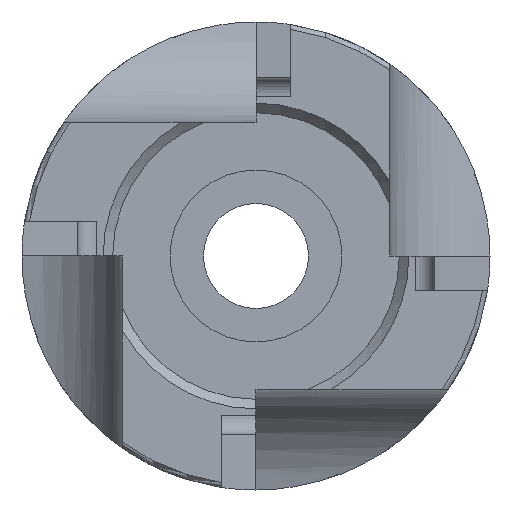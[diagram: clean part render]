
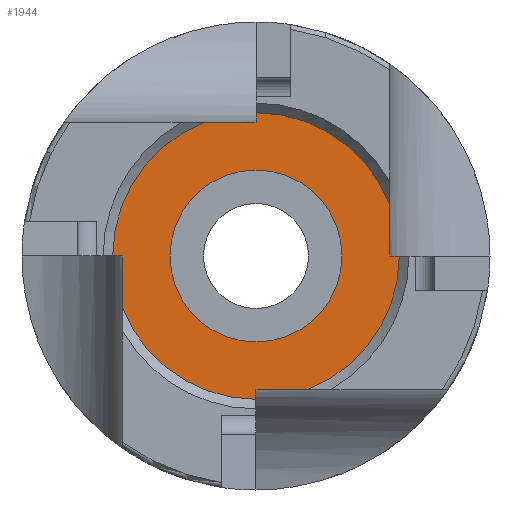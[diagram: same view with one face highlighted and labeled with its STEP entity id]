
A CAD part, front view. The second image highlights one B-rep face of the part: STEP entity #1944.
In plain terms, the highlighted planar face has unit normal (0, -1, 0).
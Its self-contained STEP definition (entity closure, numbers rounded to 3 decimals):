
#90=FACE_BOUND('',#239,.T.);
#134=FACE_OUTER_BOUND('',#238,.T.);
#238=EDGE_LOOP('',(#1490,#1491,#1492,#1493,#1494,#1495,#1496,#1497,#1498,
#1499,#1500,#1501));
#239=EDGE_LOOP('',(#1502,#1503));
#414=CIRCLE('',#2112,15.);
#415=CIRCLE('',#2114,15.);
#416=CIRCLE('',#2116,15.);
#417=CIRCLE('',#2118,15.);
#418=CIRCLE('',#2120,9.);
#419=CIRCLE('',#2121,9.);
#484=LINE('',#2900,#613);
#488=LINE('',#2910,#617);
#500=LINE('',#3009,#629);
#504=LINE('',#3017,#633);
#516=LINE('',#3116,#645);
#520=LINE('',#3124,#649);
#530=LINE('',#3238,#659);
#531=LINE('',#3239,#660);
#613=VECTOR('',#2285,10.);
#617=VECTOR('',#2295,10.);
#629=VECTOR('',#2329,10.);
#633=VECTOR('',#2337,10.);
#645=VECTOR('',#2371,10.);
#649=VECTOR('',#2379,10.);
#659=VECTOR('',#2473,10.);
#660=VECTOR('',#2474,10.);
#761=VERTEX_POINT('',#2895);
#762=VERTEX_POINT('',#2899);
#765=VERTEX_POINT('',#2909);
#781=VERTEX_POINT('',#3004);
#782=VERTEX_POINT('',#3008);
#784=VERTEX_POINT('',#3016);
#800=VERTEX_POINT('',#3111);
#801=VERTEX_POINT('',#3115);
#803=VERTEX_POINT('',#3123);
#820=VERTEX_POINT('',#3223);
#821=VERTEX_POINT('',#3231);
#822=VERTEX_POINT('',#3237);
#823=VERTEX_POINT('',#3240);
#824=VERTEX_POINT('',#3241);
#972=EDGE_CURVE('',#762,#761,#484,.T.);
#978=EDGE_CURVE('',#765,#762,#488,.T.);
#1000=EDGE_CURVE('',#782,#781,#500,.T.);
#1005=EDGE_CURVE('',#784,#782,#504,.T.);
#1027=EDGE_CURVE('',#801,#800,#516,.T.);
#1032=EDGE_CURVE('',#803,#801,#520,.T.);
#1066=EDGE_CURVE('',#820,#803,#414,.T.);
#1068=EDGE_CURVE('',#800,#784,#415,.T.);
#1070=EDGE_CURVE('',#761,#821,#416,.T.);
#1071=EDGE_CURVE('',#781,#765,#417,.T.);
#1072=EDGE_CURVE('',#821,#822,#530,.T.);
#1073=EDGE_CURVE('',#822,#820,#531,.T.);
#1074=EDGE_CURVE('',#823,#824,#418,.T.);
#1075=EDGE_CURVE('',#824,#823,#419,.T.);
#1490=ORIENTED_EDGE('',*,*,#978,.T.);
#1491=ORIENTED_EDGE('',*,*,#972,.T.);
#1492=ORIENTED_EDGE('',*,*,#1070,.T.);
#1493=ORIENTED_EDGE('',*,*,#1072,.T.);
#1494=ORIENTED_EDGE('',*,*,#1073,.T.);
#1495=ORIENTED_EDGE('',*,*,#1066,.T.);
#1496=ORIENTED_EDGE('',*,*,#1032,.T.);
#1497=ORIENTED_EDGE('',*,*,#1027,.T.);
#1498=ORIENTED_EDGE('',*,*,#1068,.T.);
#1499=ORIENTED_EDGE('',*,*,#1005,.T.);
#1500=ORIENTED_EDGE('',*,*,#1000,.T.);
#1501=ORIENTED_EDGE('',*,*,#1071,.T.);
#1502=ORIENTED_EDGE('',*,*,#1074,.F.);
#1503=ORIENTED_EDGE('',*,*,#1075,.F.);
#1874=PLANE('',#2119);
#1944=ADVANCED_FACE('',(#134,#90),#1874,.T.);
#2112=AXIS2_PLACEMENT_3D('',#3224,#2456,#2457);
#2114=AXIS2_PLACEMENT_3D('',#3229,#2460,#2461);
#2116=AXIS2_PLACEMENT_3D('',#3233,#2465,#2466);
#2118=AXIS2_PLACEMENT_3D('',#3235,#2469,#2470);
#2119=AXIS2_PLACEMENT_3D('',#3236,#2471,#2472);
#2120=AXIS2_PLACEMENT_3D('',#3242,#2475,#2476);
#2121=AXIS2_PLACEMENT_3D('',#3243,#2477,#2478);
#2285=DIRECTION('',(1.,0.,0.));
#2295=DIRECTION('',(0.,0.,1.));
#2329=DIRECTION('',(0.,0.,-1.));
#2337=DIRECTION('',(1.,0.,0.));
#2371=DIRECTION('',(-1.,0.,0.));
#2379=DIRECTION('',(0.,0.,-1.));
#2456=DIRECTION('center_axis',(0.,-1.,0.));
#2457=DIRECTION('ref_axis',(1.,0.,0.));
#2460=DIRECTION('center_axis',(0.,-1.,0.));
#2461=DIRECTION('ref_axis',(1.,0.,0.));
#2465=DIRECTION('center_axis',(0.,-1.,0.));
#2466=DIRECTION('ref_axis',(1.,0.,0.));
#2469=DIRECTION('center_axis',(0.,-1.,0.));
#2470=DIRECTION('ref_axis',(1.,0.,0.));
#2471=DIRECTION('center_axis',(0.,-1.,0.));
#2472=DIRECTION('ref_axis',(0.,0.,-1.));
#2473=DIRECTION('',(-1.,0.,0.));
#2474=DIRECTION('',(0.,0.,1.));
#2475=DIRECTION('center_axis',(0.,-1.,0.));
#2476=DIRECTION('ref_axis',(1.,0.,0.));
#2477=DIRECTION('center_axis',(0.,-1.,0.));
#2478=DIRECTION('ref_axis',(1.,0.,0.));
#2895=CARTESIAN_POINT('',(5.385,-21.,-14.));
#2899=CARTESIAN_POINT('',(0.,-21.,-14.));
#2900=CARTESIAN_POINT('',(4.5,-21.,-14.));
#2909=CARTESIAN_POINT('',(0.,-21.,-15.));
#2910=CARTESIAN_POINT('',(0.,-21.,-9.625));
#3004=CARTESIAN_POINT('',(-14.,-21.,-5.385));
#3008=CARTESIAN_POINT('',(-14.,-21.,0.));
#3009=CARTESIAN_POINT('',(-14.,-21.,0.));
#3016=CARTESIAN_POINT('',(-15.,-21.,0.));
#3017=CARTESIAN_POINT('',(-5.125,-21.,0.));
#3111=CARTESIAN_POINT('',(-5.385,-21.,14.));
#3115=CARTESIAN_POINT('',(0.,-21.,14.));
#3116=CARTESIAN_POINT('',(4.5,-21.,14.));
#3123=CARTESIAN_POINT('',(0.,-21.,15.));
#3124=CARTESIAN_POINT('',(0.,-21.,9.625));
#3223=CARTESIAN_POINT('',(14.,-21.,5.385));
#3224=CARTESIAN_POINT('Origin',(0.,-21.,0.));
#3229=CARTESIAN_POINT('Origin',(0.,-21.,0.));
#3231=CARTESIAN_POINT('',(15.,-21.,0.));
#3233=CARTESIAN_POINT('Origin',(0.,-21.,0.));
#3235=CARTESIAN_POINT('Origin',(0.,-21.,0.));
#3236=CARTESIAN_POINT('Origin',(9.,-21.,0.));
#3237=CARTESIAN_POINT('',(14.,-21.,0.));
#3238=CARTESIAN_POINT('',(14.125,-21.,0.));
#3239=CARTESIAN_POINT('',(14.,-21.,0.));
#3240=CARTESIAN_POINT('',(9.,-21.,0.));
#3241=CARTESIAN_POINT('',(-9.,-21.,0.));
#3242=CARTESIAN_POINT('Origin',(0.,-21.,0.));
#3243=CARTESIAN_POINT('Origin',(0.,-21.,0.));
